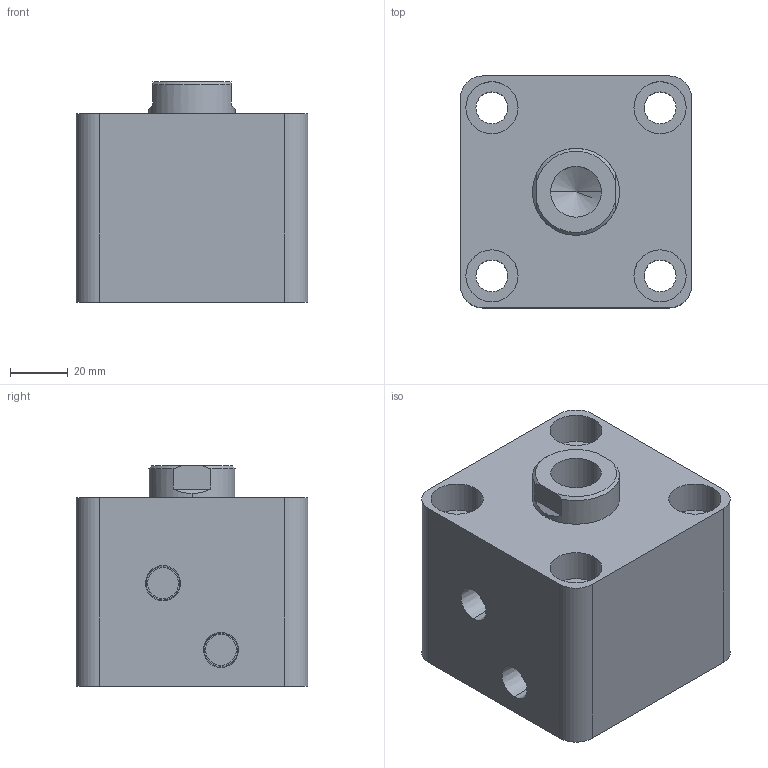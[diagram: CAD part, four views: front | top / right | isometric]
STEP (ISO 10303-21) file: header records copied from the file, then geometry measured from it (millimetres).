
FILE_DESCRIPTION (( 'STEP AP203' ), '1' );
FILE_NAME ('HTB-SD50-5N.STEP', '2019-10-07T07:04:35', ( '微软用户' ), ( '微软中国' ), 'SwSTEP 2.0', 'SolidWorks 2012', '' );
FILE_SCHEMA (( 'CONFIG_CONTROL_DESIGN' ));
Length unit declared in the file: millimetre
Products named in the file (3): HTB-SD50-5掛极; HTB-SD50-5N活塞杆; HTB-SD50-5N
Assembly tree (2 placements, depth 2):
  HTB-SD50-5N
    HTB-SD50-5掛极
    HTB-SD50-5N活塞杆
Bounding box: 80 x 80 x 76 mm (x, y, z)
Volume: 366086.2 mm3; surface area: 65456.1 mm2
Topology: 2 solids, 2 shells, 83 faces, 184 edges, 119 vertices
Faces by surface type: cylinder 42, plane 27, cone 8, torus 6
Entity records: 2655 total; most frequent: DIRECTION 456, CARTESIAN_POINT 417, ORIENTED_EDGE 364, AXIS2_PLACEMENT_3D 194, EDGE_CURVE 182, VERTEX_POINT 119, EDGE_LOOP 107, CIRCLE 106
